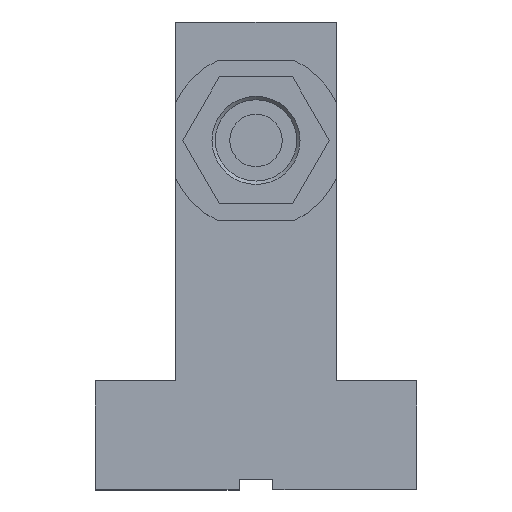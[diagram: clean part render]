
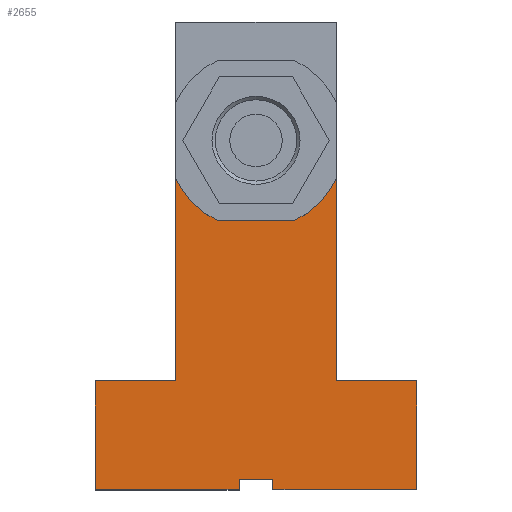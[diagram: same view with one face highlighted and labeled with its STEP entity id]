
A CAD part, top view. The second image highlights one B-rep face of the part: STEP entity #2655.
In plain terms, the highlighted planar face has unit normal (0, 0, 1).
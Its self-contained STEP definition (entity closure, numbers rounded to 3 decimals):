
#315=CARTESIAN_POINT('',(190.,-46.,246.));
#316=VERTEX_POINT('',#315);
#317=CARTESIAN_POINT('',(105.,-46.,246.));
#318=VERTEX_POINT('',#317);
#319=CARTESIAN_POINT('',(190.,-46.,246.));
#320=DIRECTION('',(-1.0,0.0,0.0));
#321=VECTOR('',#320,85.0);
#322=LINE('',#319,#321);
#323=EDGE_CURVE('',#316,#318,#322,.T.);
#388=CARTESIAN_POINT('',(105.,-40.,246.));
#389=VERTEX_POINT('',#388);
#390=CARTESIAN_POINT('',(105.,-46.,246.));
#391=DIRECTION('',(0.0,1.0,0.0));
#392=VECTOR('',#391,6.);
#393=LINE('',#390,#392);
#394=EDGE_CURVE('',#318,#389,#393,.T.);
#419=CARTESIAN_POINT('',(85.,-40.,246.));
#420=VERTEX_POINT('',#419);
#421=CARTESIAN_POINT('',(105.,-40.,246.));
#422=DIRECTION('',(-1.0,0.0,0.0));
#423=VECTOR('',#422,20.0);
#424=LINE('',#421,#423);
#425=EDGE_CURVE('',#389,#420,#424,.T.);
#450=CARTESIAN_POINT('',(85.,-46.,246.));
#451=VERTEX_POINT('',#450);
#452=CARTESIAN_POINT('',(85.,-40.,246.));
#453=DIRECTION('',(0.0,-1.0,0.0));
#454=VECTOR('',#453,6.);
#455=LINE('',#452,#454);
#456=EDGE_CURVE('',#420,#451,#455,.T.);
#481=CARTESIAN_POINT('',(0.,-46.,246.));
#482=VERTEX_POINT('',#481);
#483=CARTESIAN_POINT('',(85.,-46.,246.));
#484=DIRECTION('',(-1.0,0.0,0.0));
#485=VECTOR('',#484,85.0);
#486=LINE('',#483,#485);
#487=EDGE_CURVE('',#451,#482,#486,.T.);
#1293=CARTESIAN_POINT('',(117.361,112.5,246.0));
#1294=VERTEX_POINT('',#1293);
#1301=CARTESIAN_POINT('',(142.5,137.639,246.0));
#1302=VERTEX_POINT('',#1301);
#1303=CARTESIAN_POINT('',(95.0,160.0,246.0));
#1304=DIRECTION('',(0.0,0.0,-1.0));
#1305=DIRECTION('',(0.426,-0.905,0.0));
#1306=AXIS2_PLACEMENT_3D('',#1303,#1304,#1305);
#1307=CIRCLE('',#1306,52.5);
#1308=EDGE_CURVE('',#1302,#1294,#1307,.T.);
#1332=CARTESIAN_POINT('',(72.639,112.5,246.0));
#1333=VERTEX_POINT('',#1332);
#1340=CARTESIAN_POINT('',(117.361,112.5,246.0));
#1341=DIRECTION('',(-1.0,0.0,0.0));
#1342=VECTOR('',#1341,44.721);
#1343=LINE('',#1340,#1342);
#1344=EDGE_CURVE('',#1294,#1333,#1343,.T.);
#1364=CARTESIAN_POINT('',(47.5,137.639,246.0));
#1365=VERTEX_POINT('',#1364);
#1372=CARTESIAN_POINT('',(95.0,160.0,246.0));
#1373=DIRECTION('',(0.0,0.0,-1.0));
#1374=DIRECTION('',(-0.905,-0.426,0.0));
#1375=AXIS2_PLACEMENT_3D('',#1372,#1373,#1374);
#1376=CIRCLE('',#1375,52.5);
#1377=EDGE_CURVE('',#1333,#1365,#1376,.T.);
#1606=CARTESIAN_POINT('',(190.0,18.,246.0));
#1607=VERTEX_POINT('',#1606);
#1614=CARTESIAN_POINT('',(190.0,18.,246.0));
#1615=DIRECTION('',(0.0,-1.0,0.0));
#1616=VECTOR('',#1615,64.);
#1617=LINE('',#1614,#1616);
#1618=EDGE_CURVE('',#1607,#316,#1617,.T.);
#2453=CARTESIAN_POINT('',(142.5,18.,246.0));
#2454=VERTEX_POINT('',#2453);
#2455=CARTESIAN_POINT('',(142.5,137.639,246.0));
#2456=DIRECTION('',(0.0,-1.0,0.0));
#2457=VECTOR('',#2456,119.639);
#2458=LINE('',#2455,#2457);
#2459=EDGE_CURVE('',#1302,#2454,#2458,.T.);
#2500=CARTESIAN_POINT('',(0.0,18.0,246.0));
#2501=VERTEX_POINT('',#2500);
#2502=CARTESIAN_POINT('',(47.5,18.,246.0));
#2503=VERTEX_POINT('',#2502);
#2504=CARTESIAN_POINT('',(0.0,18.0,246.0));
#2505=DIRECTION('',(1.0,0.0,0.0));
#2506=VECTOR('',#2505,47.5);
#2507=LINE('',#2504,#2506);
#2508=EDGE_CURVE('',#2501,#2503,#2507,.T.);
#2557=CARTESIAN_POINT('',(47.5,18.,246.0));
#2558=DIRECTION('',(0.0,1.0,0.0));
#2559=VECTOR('',#2558,119.639);
#2560=LINE('',#2557,#2559);
#2561=EDGE_CURVE('',#2503,#1365,#2560,.T.);
#2580=CARTESIAN_POINT('',(142.5,18.,246.0));
#2581=DIRECTION('',(1.0,0.0,0.0));
#2582=VECTOR('',#2581,47.5);
#2583=LINE('',#2580,#2582);
#2584=EDGE_CURVE('',#2454,#1607,#2583,.T.);
#2618=CARTESIAN_POINT('',(0.,-46.,246.));
#2619=DIRECTION('',(0.0,1.0,0.0));
#2620=VECTOR('',#2619,64.);
#2621=LINE('',#2618,#2620);
#2622=EDGE_CURVE('',#482,#2501,#2621,.T.);
#2634=CARTESIAN_POINT('',(95.0,91.024,246.0));
#2635=DIRECTION('',(0.0,0.0,1.0));
#2636=DIRECTION('',(1.0,0.0,0.0));
#2637=AXIS2_PLACEMENT_3D('',#2634,#2635,#2636);
#2638=PLANE('',#2637);
#2639=ORIENTED_EDGE('',*,*,#1377,.T.);
#2640=ORIENTED_EDGE('',*,*,#2561,.F.);
#2641=ORIENTED_EDGE('',*,*,#2508,.F.);
#2642=ORIENTED_EDGE('',*,*,#2622,.F.);
#2643=ORIENTED_EDGE('',*,*,#487,.F.);
#2644=ORIENTED_EDGE('',*,*,#456,.F.);
#2645=ORIENTED_EDGE('',*,*,#425,.F.);
#2646=ORIENTED_EDGE('',*,*,#394,.F.);
#2647=ORIENTED_EDGE('',*,*,#323,.F.);
#2648=ORIENTED_EDGE('',*,*,#1618,.F.);
#2649=ORIENTED_EDGE('',*,*,#2584,.F.);
#2650=ORIENTED_EDGE('',*,*,#2459,.F.);
#2651=ORIENTED_EDGE('',*,*,#1308,.T.);
#2652=ORIENTED_EDGE('',*,*,#1344,.T.);
#2653=EDGE_LOOP('',(#2639,#2640,#2641,#2642,#2643,#2644,#2645,#2646,#2647,#2648,#2649,#2650,#2651,#2652));
#2654=FACE_OUTER_BOUND('',#2653,.T.);
#2655=ADVANCED_FACE('',(#2654),#2638,.T.);
